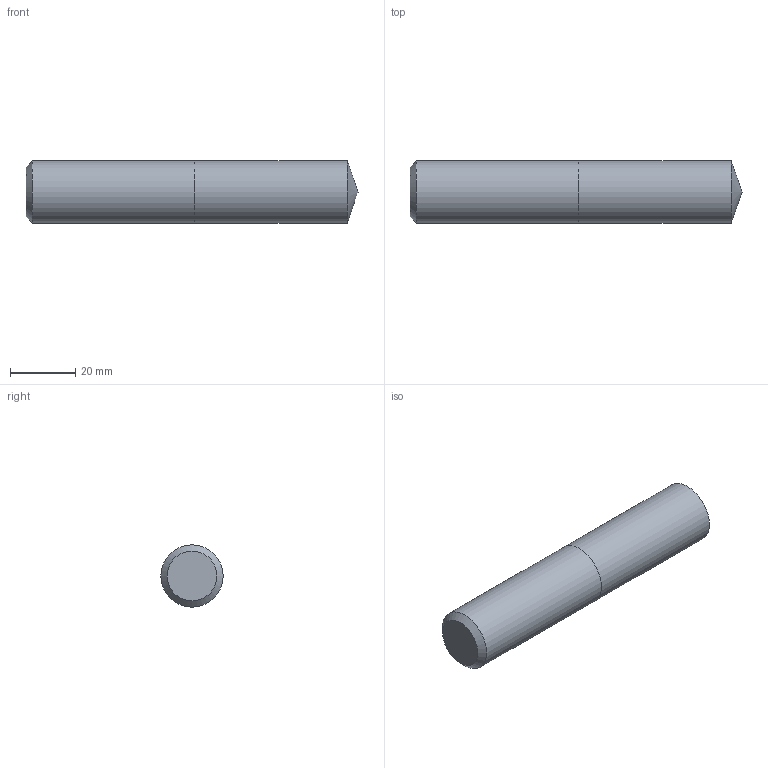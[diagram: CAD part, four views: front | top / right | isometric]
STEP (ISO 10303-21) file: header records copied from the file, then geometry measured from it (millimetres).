
FILE_DESCRIPTION (( 'STEP AP214' ), '1' );
FILE_NAME ('03-2226.STEP', '2022-02-07T07:05:02', ( 'USER' ), ( '' ), 'SwSTEP 2.0', 'SolidWorks 2018', '' );
FILE_SCHEMA (( 'AUTOMOTIVE_DESIGN' ));
Length unit declared in the file: millimetre
Products named in the file (1): 03-2226
Bounding box: 101.6 x 19.05 x 19.05 mm (x, y, z)
Volume: 28233.8 mm3; surface area: 6969.2 mm2
Topology: 2 solids, 2 shells, 7 faces, 11 edges, 7 vertices
Faces by surface type: plane 3, cylinder 2, cone 2
Full cylindrical faces by diameter (mm): 19.05 x2
Entity records: 189 total; most frequent: DIRECTION 26, CARTESIAN_POINT 18, AXIS2_PLACEMENT_3D 13, ORIENTED_EDGE 10, EDGE_LOOP 10, FACE_OUTER_BOUND 9, ADVANCED_FACE 7, UNCERTAINTY_MEASURE_WITH_UNIT 6
